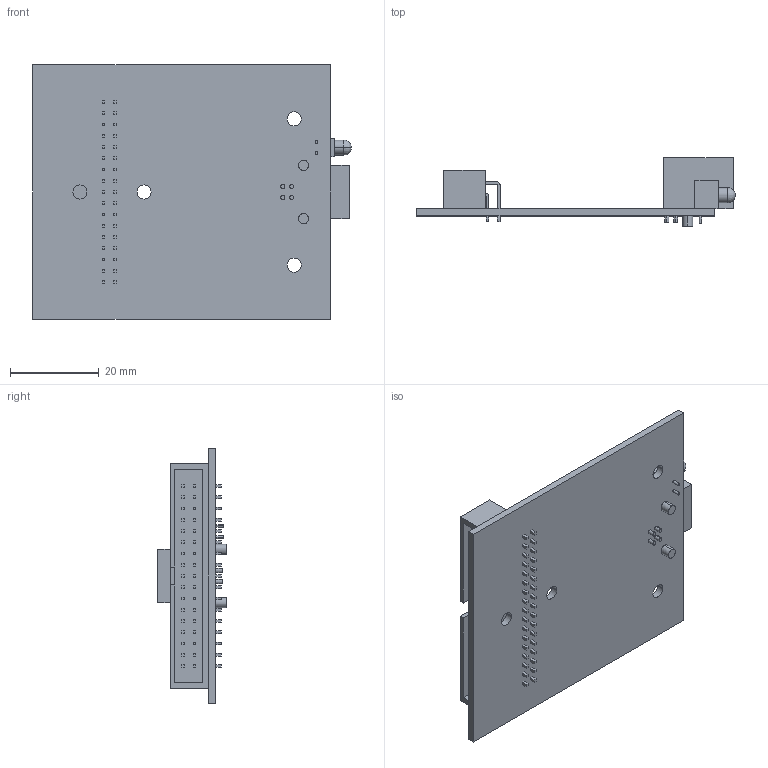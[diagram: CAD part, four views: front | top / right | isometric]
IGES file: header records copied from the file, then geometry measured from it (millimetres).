
Start section:  PTC IGES file: cd_usb-6501_oem.igs
Global section: file name: cd_usb-6501_oem.igs; native system: Pro/ENGINEER by Parametric Technology Corporation; preprocessor: 2006300; author: scarrasc; organization: Unknown; date: 20080627.143420; units: inch
Bounding box: 71.96 x 15.42 x 57.4 mm (x, y, z)
Surface area: 12386.8 mm2 (no closed solid volume)
Topology: 0 solids, 0 shells, 660 faces, 3450 edges, 3448 vertices
Faces by surface type: bspline 564, revolution 96
